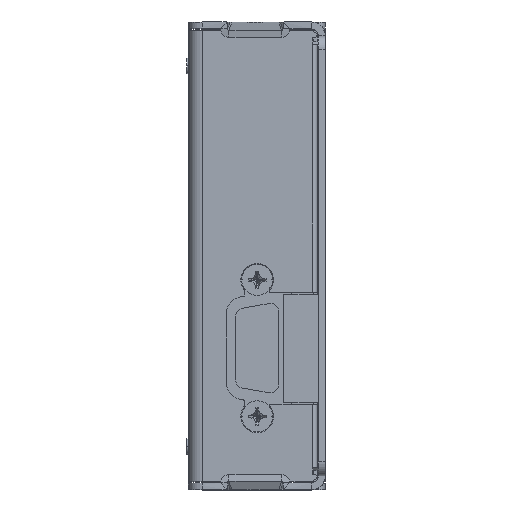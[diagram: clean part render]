
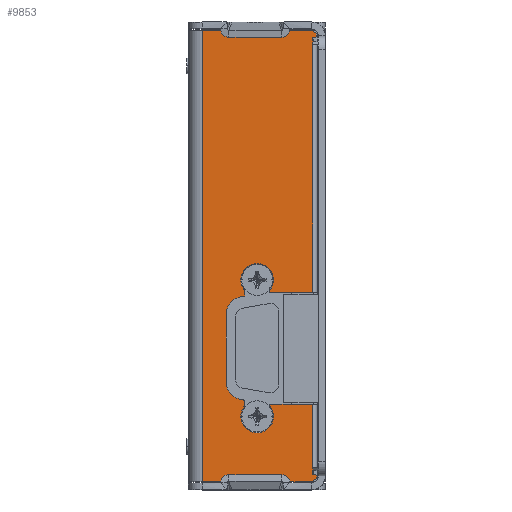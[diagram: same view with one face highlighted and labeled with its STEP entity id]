
A CAD part, left-side view. The second image highlights one B-rep face of the part: STEP entity #9853.
In plain terms, the highlighted planar face has unit normal (-1, 0, 0).
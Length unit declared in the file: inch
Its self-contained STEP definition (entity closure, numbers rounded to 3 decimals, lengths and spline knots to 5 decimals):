
#3141=DIRECTION('',(0.,0.,-1.));
#3142=VECTOR('',#3141,0.0129);
#3143=CARTESIAN_POINT('',(-0.89601,-0.58668,
-1.8741));
#3144=LINE('',#3143,#3142);
#3145=DIRECTION('',(0.,0.,1.));
#3146=VECTOR('',#3145,0.04035);
#3147=CARTESIAN_POINT('',(-0.89601,-0.40632,
-1.91445));
#3148=LINE('',#3147,#3146);
#3149=DIRECTION('',(0.,-0.985,0.174));
#3150=VECTOR('',#3149,0.02563);
#3151=CARTESIAN_POINT('',(-0.89601,-0.38108,
-1.9189));
#3152=LINE('',#3151,#3150);
#3153=CARTESIAN_POINT('',(-0.89601,-0.404,-2.0489));
#3154=DIRECTION('',(-1.,0.,0.));
#3155=DIRECTION('',(0.,0.174,0.985));
#3156=AXIS2_PLACEMENT_3D('',#3153,#3154,#3155);
#3158=DIRECTION('',(0.,0.,1.));
#3159=VECTOR('',#3158,0.48221);
#3160=CARTESIAN_POINT('',(-0.89601,-0.272,-2.5311));
#3161=LINE('',#3160,#3159);
#3162=CARTESIAN_POINT('',(-0.89601,-0.404,-2.5311));
#3163=DIRECTION('',(-1.,0.,0.));
#3164=DIRECTION('',(0.,1.,0.));
#3165=AXIS2_PLACEMENT_3D('',#3162,#3163,#3164);
#3167=DIRECTION('',(0.,0.985,0.174));
#3168=VECTOR('',#3167,0.02563);
#3169=CARTESIAN_POINT('',(-0.89601,-0.40632,
-2.66555));
#3170=LINE('',#3169,#3168);
#3171=DIRECTION('',(0.,0.,1.));
#3172=VECTOR('',#3171,0.04035);
#3173=CARTESIAN_POINT('',(-0.89601,-0.40632,
-2.7059));
#3174=LINE('',#3173,#3172);
#3175=DIRECTION('',(0.,0.,-1.));
#3176=VECTOR('',#3175,0.0129);
#3177=CARTESIAN_POINT('',(-0.89601,-0.58668,-2.693));
#3178=LINE('',#3177,#3176);
#3179=DIRECTION('',(0.,1.,0.));
#3180=VECTOR('',#3179,0.30932);
#3181=CARTESIAN_POINT('',(-0.89601,-0.896,-2.693));
#3182=LINE('',#3181,#3180);
#3183=DIRECTION('',(0.,0.,1.));
#3184=VECTOR('',#3183,0.05);
#3185=CARTESIAN_POINT('',(-0.89601,-0.896,-3.202));
#3186=LINE('',#3185,#3184);
#3187=DIRECTION('',(0.,1.,0.));
#3188=VECTOR('',#3187,0.032);
#3189=CARTESIAN_POINT('',(-0.89601,-0.928,-3.202));
#3190=LINE('',#3189,#3188);
#3191=CARTESIAN_POINT('',(-0.89601,-0.878,-3.202));
#3192=DIRECTION('',(-1.,0.,0.));
#3193=DIRECTION('',(0.,0.,-1.));
#3194=AXIS2_PLACEMENT_3D('',#3191,#3192,#3193);
#3196=DIRECTION('',(0.,0.,-1.));
#3197=VECTOR('',#3196,3.252);
#3198=CARTESIAN_POINT('',(-0.89601,-0.1,0.));
#3199=LINE('',#3198,#3197);
#3200=CARTESIAN_POINT('',(-0.89601,-0.878,-0.05));
#3201=DIRECTION('',(-1.,0.,0.));
#3202=DIRECTION('',(0.,-1.,0.));
#3203=AXIS2_PLACEMENT_3D('',#3200,#3201,#3202);
#3205=DIRECTION('',(0.,1.,0.));
#3206=VECTOR('',#3205,0.032);
#3207=CARTESIAN_POINT('',(-0.89601,-0.928,-0.05));
#3208=LINE('',#3207,#3206);
#3209=DIRECTION('',(0.,0.,1.));
#3210=VECTOR('',#3209,0.05);
#3211=CARTESIAN_POINT('',(-0.89601,-0.896,-0.1));
#3212=LINE('',#3211,#3210);
#3213=DIRECTION('',(0.,1.,0.));
#3214=VECTOR('',#3213,0.30932);
#3215=CARTESIAN_POINT('',(-0.89601,-0.896,-1.887));
#3216=LINE('',#3215,#3214);
#3222=CARTESIAN_POINT('',(-0.89601,-0.4965,-1.798));
#3223=DIRECTION('',(1.,0.,0.));
#3224=DIRECTION('',(0.,0.764,-0.645));
#3225=AXIS2_PLACEMENT_3D('',#3222,#3223,#3224);
#3285=CARTESIAN_POINT('',(-0.89601,-0.4965,-2.782));
#3286=DIRECTION('',(1.,0.,0.));
#3287=DIRECTION('',(0.,-0.764,0.645));
#3288=AXIS2_PLACEMENT_3D('',#3285,#3286,#3287);
#3682=DIRECTION('',(0.,0.,-1.));
#3683=VECTOR('',#3682,1.787);
#3684=CARTESIAN_POINT('',(-0.89601,-0.896,-0.1));
#3685=LINE('',#3684,#3683);
#3715=DIRECTION('',(0.,1.,0.));
#3716=VECTOR('',#3715,0.778);
#3717=CARTESIAN_POINT('',(-0.89601,-0.878,0.));
#3718=LINE('',#3717,#3716);
#3772=DIRECTION('',(0.,-1.,0.));
#3773=VECTOR('',#3772,0.778);
#3774=CARTESIAN_POINT('',(-0.89601,-0.1,-3.252));
#3775=LINE('',#3774,#3773);
#3784=DIRECTION('',(0.,0.,-1.));
#3785=VECTOR('',#3784,0.459);
#3786=CARTESIAN_POINT('',(-0.89601,-0.896,-2.693));
#3787=LINE('',#3786,#3785);
#4521=CARTESIAN_POINT('',(-0.89601,-0.1,0.));
#4523=VERTEX_POINT('',#4521);
#4533=CARTESIAN_POINT('',(-0.89601,-0.1,-3.252));
#4535=VERTEX_POINT('',#4533);
#4616=CARTESIAN_POINT('',(-0.89601,-0.272,-2.5311));
#4617=CARTESIAN_POINT('',(-0.89601,-0.272,-2.0489));
#4618=VERTEX_POINT('',#4616);
#4619=VERTEX_POINT('',#4617);
#4620=CARTESIAN_POINT('',(-0.89601,-0.38108,
-1.9189));
#4621=VERTEX_POINT('',#4620);
#4622=CARTESIAN_POINT('',(-0.89601,-0.38108,
-2.6611));
#4623=VERTEX_POINT('',#4622);
#4624=CARTESIAN_POINT('',(-0.89601,-0.896,-1.887));
#4626=VERTEX_POINT('',#4624);
#4628=CARTESIAN_POINT('',(-0.89601,-0.896,-2.693));
#4630=VERTEX_POINT('',#4628);
#4736=CARTESIAN_POINT('',(-0.89601,-0.878,0.));
#4738=VERTEX_POINT('',#4736);
#4740=CARTESIAN_POINT('',(-0.89601,-0.878,-3.252));
#4742=VERTEX_POINT('',#4740);
#4744=CARTESIAN_POINT('',(-0.89601,-0.896,-0.1));
#4745=CARTESIAN_POINT('',(-0.89601,-0.896,-0.05));
#4746=VERTEX_POINT('',#4744);
#4747=VERTEX_POINT('',#4745);
#4748=CARTESIAN_POINT('',(-0.89601,-0.928,-0.05));
#4749=VERTEX_POINT('',#4748);
#4750=CARTESIAN_POINT('',(-0.89601,-0.928,-3.202));
#4751=CARTESIAN_POINT('',(-0.89601,-0.896,-3.202));
#4752=VERTEX_POINT('',#4750);
#4753=VERTEX_POINT('',#4751);
#4754=CARTESIAN_POINT('',(-0.89601,-0.896,-3.152));
#4755=VERTEX_POINT('',#4754);
#4812=CARTESIAN_POINT('',(-0.89601,-0.58668,
-1.8741));
#4813=CARTESIAN_POINT('',(-0.89601,-0.58668,-1.887));
#4814=VERTEX_POINT('',#4812);
#4815=VERTEX_POINT('',#4813);
#4816=CARTESIAN_POINT('',(-0.89601,-0.58668,-2.693));
#4817=CARTESIAN_POINT('',(-0.89601,-0.58668,
-2.7059));
#4818=VERTEX_POINT('',#4816);
#4819=VERTEX_POINT('',#4817);
#4820=CARTESIAN_POINT('',(-0.89601,-0.40632,
-2.7059));
#4821=CARTESIAN_POINT('',(-0.89601,-0.40632,
-2.66555));
#4822=VERTEX_POINT('',#4820);
#4823=VERTEX_POINT('',#4821);
#4824=CARTESIAN_POINT('',(-0.89601,-0.40632,
-1.91445));
#4825=CARTESIAN_POINT('',(-0.89601,-0.40632,
-1.8741));
#4826=VERTEX_POINT('',#4824);
#4827=VERTEX_POINT('',#4825);
#9800=CARTESIAN_POINT('',(-0.89601,-0.1,0.));
#9801=DIRECTION('',(-1.,0.,0.));
#9802=DIRECTION('',(0.,-1.,0.));
#9803=AXIS2_PLACEMENT_3D('',#9800,#9801,#9802);
#9804=PLANE('',#9803);
#9805=ORIENTED_EDGE('',*,*,#9790,.F.);
#9807=ORIENTED_EDGE('',*,*,#9806,.F.);
#9809=ORIENTED_EDGE('',*,*,#9808,.F.);
#9811=ORIENTED_EDGE('',*,*,#9810,.F.);
#9813=ORIENTED_EDGE('',*,*,#9812,.T.);
#9815=ORIENTED_EDGE('',*,*,#9814,.F.);
#9817=ORIENTED_EDGE('',*,*,#9816,.T.);
#9819=ORIENTED_EDGE('',*,*,#9818,.F.);
#9821=ORIENTED_EDGE('',*,*,#9820,.F.);
#9823=ORIENTED_EDGE('',*,*,#9822,.F.);
#9825=ORIENTED_EDGE('',*,*,#9824,.F.);
#9827=ORIENTED_EDGE('',*,*,#9826,.F.);
#9829=ORIENTED_EDGE('',*,*,#9828,.T.);
#9831=ORIENTED_EDGE('',*,*,#9830,.F.);
#9833=ORIENTED_EDGE('',*,*,#9832,.F.);
#9835=ORIENTED_EDGE('',*,*,#9834,.F.);
#9837=ORIENTED_EDGE('',*,*,#9836,.F.);
#9838=ORIENTED_EDGE('',*,*,#8241,.F.);
#9840=ORIENTED_EDGE('',*,*,#9839,.F.);
#9842=ORIENTED_EDGE('',*,*,#9841,.F.);
#9844=ORIENTED_EDGE('',*,*,#9843,.T.);
#9846=ORIENTED_EDGE('',*,*,#9845,.F.);
#9848=ORIENTED_EDGE('',*,*,#9847,.T.);
#9850=ORIENTED_EDGE('',*,*,#9849,.T.);
#9851=EDGE_LOOP('',(#9805,#9807,#9809,#9811,#9813,#9815,#9817,#9819,#9821,#9823,
#9825,#9827,#9829,#9831,#9833,#9835,#9837,#9838,#9840,#9842,#9844,#9846,#9848,
#9850));
#9852=FACE_OUTER_BOUND('',#9851,.F.);
#9853=ADVANCED_FACE('',(#9852),#9804,.T.);
#3157=CIRCLE('',#3156,0.132);
#3166=CIRCLE('',#3165,0.132);
#3195=CIRCLE('',#3194,0.05);
#3204=CIRCLE('',#3203,0.05);
#3226=CIRCLE('',#3225,0.118);
#3289=CIRCLE('',#3288,0.118);
#8241=EDGE_CURVE('',#4523,#4535,#3199,.T.);
#9790=EDGE_CURVE('',#4814,#4815,#3144,.T.);
#9806=EDGE_CURVE('',#4827,#4814,#3226,.T.);
#9808=EDGE_CURVE('',#4826,#4827,#3148,.T.);
#9810=EDGE_CURVE('',#4621,#4826,#3152,.T.);
#9812=EDGE_CURVE('',#4621,#4619,#3157,.T.);
#9814=EDGE_CURVE('',#4618,#4619,#3161,.T.);
#9816=EDGE_CURVE('',#4618,#4623,#3166,.T.);
#9818=EDGE_CURVE('',#4823,#4623,#3170,.T.);
#9820=EDGE_CURVE('',#4822,#4823,#3174,.T.);
#9822=EDGE_CURVE('',#4819,#4822,#3289,.T.);
#9824=EDGE_CURVE('',#4818,#4819,#3178,.T.);
#9826=EDGE_CURVE('',#4630,#4818,#3182,.T.);
#9828=EDGE_CURVE('',#4630,#4755,#3787,.T.);
#9830=EDGE_CURVE('',#4753,#4755,#3186,.T.);
#9832=EDGE_CURVE('',#4752,#4753,#3190,.T.);
#9834=EDGE_CURVE('',#4742,#4752,#3195,.T.);
#9836=EDGE_CURVE('',#4535,#4742,#3775,.T.);
#9839=EDGE_CURVE('',#4738,#4523,#3718,.T.);
#9841=EDGE_CURVE('',#4749,#4738,#3204,.T.);
#9843=EDGE_CURVE('',#4749,#4747,#3208,.T.);
#9845=EDGE_CURVE('',#4746,#4747,#3212,.T.);
#9847=EDGE_CURVE('',#4746,#4626,#3685,.T.);
#9849=EDGE_CURVE('',#4626,#4815,#3216,.T.);
